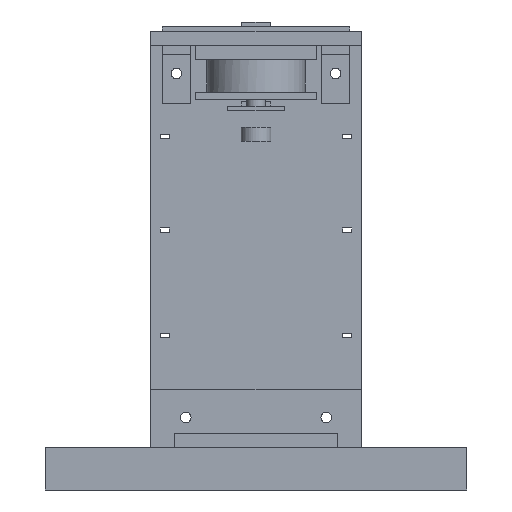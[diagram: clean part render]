
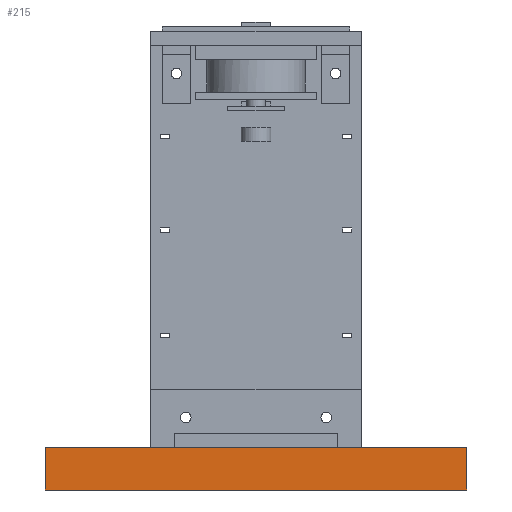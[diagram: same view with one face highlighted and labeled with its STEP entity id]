
A CAD part, front view. The second image highlights one B-rep face of the part: STEP entity #215.
In plain terms, the highlighted planar face has unit normal (0, -1, 0).
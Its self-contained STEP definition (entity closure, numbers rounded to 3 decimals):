
#99 = EDGE_CURVE('',#100,#102,#104,.T.);
#100 = VERTEX_POINT('',#101);
#101 = CARTESIAN_POINT('',(0.,0.,0.));
#102 = VERTEX_POINT('',#103);
#103 = CARTESIAN_POINT('',(0.,0.,18.));
#104 = SURFACE_CURVE('',#105,(#109,#121),.PCURVE_S1.);
#105 = LINE('',#106,#107);
#106 = CARTESIAN_POINT('',(0.,0.,0.));
#107 = VECTOR('',#108,1.);
#108 = DIRECTION('',(0.,0.,1.));
#109 = PCURVE('',#110,#115);
#110 = PLANE('',#111);
#111 = AXIS2_PLACEMENT_3D('',#112,#113,#114);
#112 = CARTESIAN_POINT('',(0.,0.,0.));
#113 = DIRECTION('',(1.,0.,0.));
#114 = DIRECTION('',(0.,0.,1.));
#115 = DEFINITIONAL_REPRESENTATION('',(#116),#120);
#116 = LINE('',#117,#118);
#117 = CARTESIAN_POINT('',(0.,0.));
#118 = VECTOR('',#119,1.);
#119 = DIRECTION('',(1.,0.));
#120 = ( GEOMETRIC_REPRESENTATION_CONTEXT(2) 
PARAMETRIC_REPRESENTATION_CONTEXT() REPRESENTATION_CONTEXT('2D SPACE',''
  ) );
#121 = PCURVE('',#122,#127);
#122 = PLANE('',#123);
#123 = AXIS2_PLACEMENT_3D('',#124,#125,#126);
#124 = CARTESIAN_POINT('',(0.,0.,0.));
#125 = DIRECTION('',(0.,1.,0.));
#126 = DIRECTION('',(0.,0.,1.));
#127 = DEFINITIONAL_REPRESENTATION('',(#128),#132);
#128 = LINE('',#129,#130);
#129 = CARTESIAN_POINT('',(0.,0.));
#130 = VECTOR('',#131,1.);
#131 = DIRECTION('',(1.,0.));
#132 = ( GEOMETRIC_REPRESENTATION_CONTEXT(2) 
PARAMETRIC_REPRESENTATION_CONTEXT() REPRESENTATION_CONTEXT('2D SPACE',''
  ) );
#150 = PLANE('',#151);
#151 = AXIS2_PLACEMENT_3D('',#152,#153,#154);
#152 = CARTESIAN_POINT('',(0.,0.,0.));
#153 = DIRECTION('',(0.,0.,1.));
#154 = DIRECTION('',(1.,0.,0.));
#204 = PLANE('',#205);
#205 = AXIS2_PLACEMENT_3D('',#206,#207,#208);
#206 = CARTESIAN_POINT('',(0.,0.,18.));
#207 = DIRECTION('',(0.,0.,1.));
#208 = DIRECTION('',(1.,0.,0.));
#215 = ADVANCED_FACE('',(#216),#122,.F.);
#216 = FACE_BOUND('',#217,.F.);
#217 = EDGE_LOOP('',(#218,#241,#242,#265));
#218 = ORIENTED_EDGE('',*,*,#219,.F.);
#219 = EDGE_CURVE('',#100,#220,#222,.T.);
#220 = VERTEX_POINT('',#221);
#221 = CARTESIAN_POINT('',(180.,0.,0.));
#222 = SURFACE_CURVE('',#223,(#227,#234),.PCURVE_S1.);
#223 = LINE('',#224,#225);
#224 = CARTESIAN_POINT('',(0.,0.,0.));
#225 = VECTOR('',#226,1.);
#226 = DIRECTION('',(1.,0.,0.));
#227 = PCURVE('',#122,#228);
#228 = DEFINITIONAL_REPRESENTATION('',(#229),#233);
#229 = LINE('',#230,#231);
#230 = CARTESIAN_POINT('',(0.,0.));
#231 = VECTOR('',#232,1.);
#232 = DIRECTION('',(0.,1.));
#233 = ( GEOMETRIC_REPRESENTATION_CONTEXT(2) 
PARAMETRIC_REPRESENTATION_CONTEXT() REPRESENTATION_CONTEXT('2D SPACE',''
  ) );
#234 = PCURVE('',#150,#235);
#235 = DEFINITIONAL_REPRESENTATION('',(#236),#240);
#236 = LINE('',#237,#238);
#237 = CARTESIAN_POINT('',(0.,0.));
#238 = VECTOR('',#239,1.);
#239 = DIRECTION('',(1.,0.));
#240 = ( GEOMETRIC_REPRESENTATION_CONTEXT(2) 
PARAMETRIC_REPRESENTATION_CONTEXT() REPRESENTATION_CONTEXT('2D SPACE',''
  ) );
#241 = ORIENTED_EDGE('',*,*,#99,.T.);
#242 = ORIENTED_EDGE('',*,*,#243,.T.);
#243 = EDGE_CURVE('',#102,#244,#246,.T.);
#244 = VERTEX_POINT('',#245);
#245 = CARTESIAN_POINT('',(180.,0.,18.));
#246 = SURFACE_CURVE('',#247,(#251,#258),.PCURVE_S1.);
#247 = LINE('',#248,#249);
#248 = CARTESIAN_POINT('',(0.,0.,18.));
#249 = VECTOR('',#250,1.);
#250 = DIRECTION('',(1.,0.,0.));
#251 = PCURVE('',#122,#252);
#252 = DEFINITIONAL_REPRESENTATION('',(#253),#257);
#253 = LINE('',#254,#255);
#254 = CARTESIAN_POINT('',(18.,0.));
#255 = VECTOR('',#256,1.);
#256 = DIRECTION('',(0.,1.));
#257 = ( GEOMETRIC_REPRESENTATION_CONTEXT(2) 
PARAMETRIC_REPRESENTATION_CONTEXT() REPRESENTATION_CONTEXT('2D SPACE',''
  ) );
#258 = PCURVE('',#204,#259);
#259 = DEFINITIONAL_REPRESENTATION('',(#260),#264);
#260 = LINE('',#261,#262);
#261 = CARTESIAN_POINT('',(0.,0.));
#262 = VECTOR('',#263,1.);
#263 = DIRECTION('',(1.,0.));
#264 = ( GEOMETRIC_REPRESENTATION_CONTEXT(2) 
PARAMETRIC_REPRESENTATION_CONTEXT() REPRESENTATION_CONTEXT('2D SPACE',''
  ) );
#265 = ORIENTED_EDGE('',*,*,#266,.F.);
#266 = EDGE_CURVE('',#220,#244,#267,.T.);
#267 = SURFACE_CURVE('',#268,(#272,#279),.PCURVE_S1.);
#268 = LINE('',#269,#270);
#269 = CARTESIAN_POINT('',(180.,0.,0.));
#270 = VECTOR('',#271,1.);
#271 = DIRECTION('',(0.,0.,1.));
#272 = PCURVE('',#122,#273);
#273 = DEFINITIONAL_REPRESENTATION('',(#274),#278);
#274 = LINE('',#275,#276);
#275 = CARTESIAN_POINT('',(0.,180.));
#276 = VECTOR('',#277,1.);
#277 = DIRECTION('',(1.,0.));
#278 = ( GEOMETRIC_REPRESENTATION_CONTEXT(2) 
PARAMETRIC_REPRESENTATION_CONTEXT() REPRESENTATION_CONTEXT('2D SPACE',''
  ) );
#279 = PCURVE('',#280,#285);
#280 = PLANE('',#281);
#281 = AXIS2_PLACEMENT_3D('',#282,#283,#284);
#282 = CARTESIAN_POINT('',(180.,0.,0.));
#283 = DIRECTION('',(1.,0.,0.));
#284 = DIRECTION('',(0.,0.,1.));
#285 = DEFINITIONAL_REPRESENTATION('',(#286),#290);
#286 = LINE('',#287,#288);
#287 = CARTESIAN_POINT('',(0.,0.));
#288 = VECTOR('',#289,1.);
#289 = DIRECTION('',(1.,0.));
#290 = ( GEOMETRIC_REPRESENTATION_CONTEXT(2) 
PARAMETRIC_REPRESENTATION_CONTEXT() REPRESENTATION_CONTEXT('2D SPACE',''
  ) );
